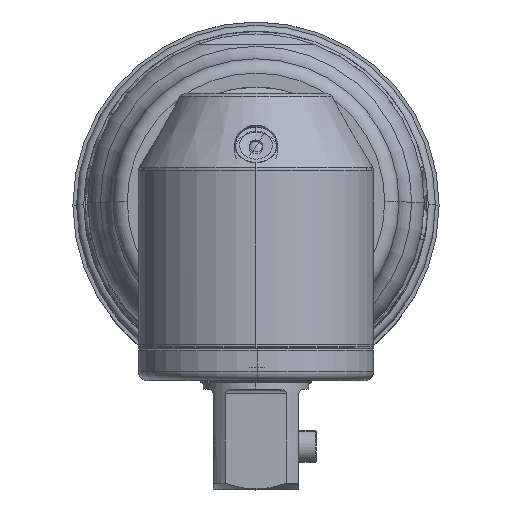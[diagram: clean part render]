
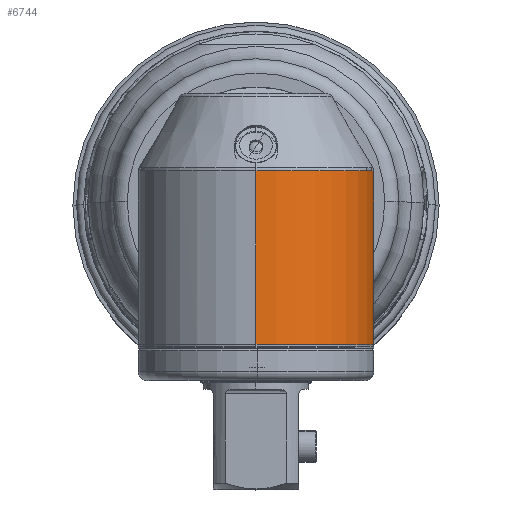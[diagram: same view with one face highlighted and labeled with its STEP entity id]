
A CAD part, top view. The second image highlights one B-rep face of the part: STEP entity #6744.
In plain terms, the highlighted cylindrical face has radius 13.081 mm (diameter 26.162 mm), a partial arc.
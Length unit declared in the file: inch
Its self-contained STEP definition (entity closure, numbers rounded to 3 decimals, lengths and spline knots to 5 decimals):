
#1413 = CARTESIAN_POINT ( 'NONE',  ( 0., -0.62647, 6.99332 ) ) ;
#3369 = CARTESIAN_POINT ( 'NONE',  ( 0.36282, -0.3648, 6.11243 ) ) ;
#3511 = VECTOR ( 'NONE', #37301, 39.37008 ) ;
#3954 = CARTESIAN_POINT ( 'NONE',  ( 0.44399, -0.24677, 6.21567 ) ) ;
#5817 = AXIS2_PLACEMENT_3D ( 'NONE', #27401, #51728, #23624 ) ;
#5897 = VERTEX_POINT ( 'NONE', #1413 ) ;
#6402 = CARTESIAN_POINT ( 'NONE',  ( 0., 0.13299, 6.99332 ) ) ;
#6744 = ADVANCED_FACE ( 'NONE', ( #47325 ), #39383, .T. ) ;
#7674 = CARTESIAN_POINT ( 'NONE',  ( 0.27817, -0.44016, 6.04451 ) ) ;
#8272 = CARTESIAN_POINT ( 'NONE',  ( 0.17091, -0.49763, 5.99208 ) ) ;
#8562 = CARTESIAN_POINT ( 'NONE',  ( 0.38634, -0.33675, 6.13736 ) ) ;
#9165 = CARTESIAN_POINT ( 'NONE',  ( 0.50003, -0.03081, 6.35504 ) ) ;
#9177 = EDGE_CURVE ( 'NONE', #16048, #18610, #26605, .T. ) ;
#10642 = DIRECTION ( 'NONE',  ( 0., 0., 1. ) ) ;
#11414 = AXIS2_PLACEMENT_3D ( 'NONE', #43348, #29170, #10642 ) ;
#11429 = DIRECTION ( 'NONE',  ( 0., 0., 1. ) ) ;
#12171 = AXIS2_PLACEMENT_3D ( 'NONE', #17238, #12342, #11429 ) ;
#12229 = CARTESIAN_POINT ( 'NONE',  ( 0.0444, -0.52739, 5.96478 ) ) ;
#12342 = DIRECTION ( 'NONE',  ( 0., 1., 0. ) ) ;
#12381 = EDGE_LOOP ( 'NONE', ( #44365, #18179, #15277, #31672, #21694 ) ) ;
#12538 = CARTESIAN_POINT ( 'NONE',  ( 0.30895, -0.4166, 6.06586 ) ) ;
#13139 = CARTESIAN_POINT ( 'NONE',  ( 0.42739, -0.27766, 6.18912 ) ) ;
#13465 = CARTESIAN_POINT ( 'NONE',  ( 0.48121, -0.14696, 6.29432 ) ) ;
#15277 = ORIENTED_EDGE ( 'NONE', *, *, #48624, .T. ) ;
#16048 = VERTEX_POINT ( 'NONE', #56120 ) ;
#16228 = CARTESIAN_POINT ( 'NONE',  ( 0.32331, -0.4042, 6.07706 ) ) ;
#16957 = VERTEX_POINT ( 'NONE', #57329 ) ;
#17106 = CARTESIAN_POINT ( 'NONE',  ( 0., -0.52897, 5.96332 ) ) ;
#17238 = CARTESIAN_POINT ( 'NONE',  ( 0., -0.62647, 6.47832 ) ) ;
#17721 = CARTESIAN_POINT ( 'NONE',  ( 0.49606, -0.07257, 6.33985 ) ) ;
#18179 = ORIENTED_EDGE ( 'NONE', *, *, #18759, .T. ) ;
#18610 = VERTEX_POINT ( 'NONE', #6402 ) ;
#18633 = CARTESIAN_POINT ( 'NONE',  ( 0.49702, 0.06697, 6.34335 ) ) ;
#18759 = EDGE_CURVE ( 'NONE', #16957, #39253, #54286, .T. ) ;
#18944 = CARTESIAN_POINT ( 'NONE',  ( 0.48505, 0.13299, 6.30527 ) ) ;
#21694 = ORIENTED_EDGE ( 'NONE', *, *, #36512, .F. ) ;
#22373 = CARTESIAN_POINT ( 'NONE',  ( 0.48943, 0.11499, 6.31753 ) ) ;
#22660 = CARTESIAN_POINT ( 'NONE',  ( 0.50044, 0.02462, 6.35672 ) ) ;
#23578 = CARTESIAN_POINT ( 'NONE',  ( 0.49814, 0.05683, 6.3476 ) ) ;
#23624 = DIRECTION ( 'NONE',  ( 0., 0., 1. ) ) ;
#26605 = CIRCLE ( 'NONE', #5817, 0.515 ) ;
#27057 = CARTESIAN_POINT ( 'NONE',  ( 0.22707, -0.47183, 6.01567 ) ) ;
#27401 = CARTESIAN_POINT ( 'NONE',  ( 0., 0.13299, 6.47832 ) ) ;
#27967 = CARTESIAN_POINT ( 'NONE',  ( 0.49145, -0.10148, 6.32425 ) ) ;
#28547 = LINE ( 'NONE', #47315, #50505 ) ;
#28556 = CARTESIAN_POINT ( 'NONE',  ( 0.47053, -0.18142, 6.2685 ) ) ;
#29170 = DIRECTION ( 'NONE',  ( 0., 1., 0. ) ) ;
#30849 = CARTESIAN_POINT ( 'NONE',  ( 0., -0.62647, 5.96332 ) ) ;
#31104 = CARTESIAN_POINT ( 'NONE',  ( 0.15085, -0.50488, 5.98544 ) ) ;
#31672 = ORIENTED_EDGE ( 'NONE', *, *, #9177, .T. ) ;
#32296 = CARTESIAN_POINT ( 'NONE',  ( 0.50085, -0.00881, 6.35841 ) ) ;
#32597 = CARTESIAN_POINT ( 'NONE',  ( 0.49986, 0.03555, 6.35434 ) ) ;
#32906 = CARTESIAN_POINT ( 'NONE',  ( 0.49732, -0.06248, 6.34447 ) ) ;
#33185 = CARTESIAN_POINT ( 'NONE',  ( 0.49931, -0.04151, 6.35211 ) ) ;
#36512 = EDGE_CURVE ( 'NONE', #5897, #18610, #28547, .T. ) ;
#36643 = CARTESIAN_POINT ( 'NONE',  ( 0.46445, -0.19806, 6.25532 ) ) ;
#37301 = DIRECTION ( 'NONE',  ( 0., 1., 0. ) ) ;
#39253 = VERTEX_POINT ( 'NONE', #17106 ) ;
#39383 = CYLINDRICAL_SURFACE ( 'NONE', #11414, 0.515 ) ;
#39756 = CARTESIAN_POINT ( 'NONE',  ( 0., -0.52897, 5.96332 ) ) ;
#42446 = CARTESIAN_POINT ( 'NONE',  ( 0.49313, -0.09204, 6.32975 ) ) ;
#43348 = CARTESIAN_POINT ( 'NONE',  ( 0., -0.62647, 6.47832 ) ) ;
#44365 = ORIENTED_EDGE ( 'NONE', *, *, #58276, .T. ) ;
#45238 = CARTESIAN_POINT ( 'NONE',  ( 0.10912, -0.51674, 5.97456 ) ) ;
#45567 = CARTESIAN_POINT ( 'NONE',  ( 0.35025, -0.3783, 6.10034 ) ) ;
#46462 = DIRECTION ( 'NONE',  ( 0., 1., 0. ) ) ;
#46757 = CARTESIAN_POINT ( 'NONE',  ( 0.50093, 0.00255, 6.35877 ) ) ;
#47315 = CARTESIAN_POINT ( 'NONE',  ( 0., -0.62647, 6.99332 ) ) ;
#47321 = CARTESIAN_POINT ( 'NONE',  ( 0.3973, -0.32217, 6.15023 ) ) ;
#47325 = FACE_OUTER_BOUND ( 'NONE', #12381, .T. ) ;
#47598 = CIRCLE ( 'NONE', #12171, 0.515 ) ;
#48624 = EDGE_CURVE ( 'NONE', #39253, #16048, #56744, .T. ) ;
#50475 = CARTESIAN_POINT ( 'NONE',  ( 0.08773, -0.52129, 5.97038 ) ) ;
#50505 = VECTOR ( 'NONE', #46462, 39.37008 ) ;
#51728 = DIRECTION ( 'NONE',  ( 0., -1., 0. ) ) ;
#54286 = LINE ( 'NONE', #30849, #3511 ) ;
#54857 = CARTESIAN_POINT ( 'NONE',  ( 0.02239, -0.52897, 5.96332 ) ) ;
#55461 = CARTESIAN_POINT ( 'NONE',  ( 0.49299, 0.09649, 6.32906 ) ) ;
#55764 = CARTESIAN_POINT ( 'NONE',  ( 0.4858, -0.12919, 6.30695 ) ) ;
#56120 = CARTESIAN_POINT ( 'NONE',  ( 0.48505, 0.13299, 6.30527 ) ) ;
#56744 = B_SPLINE_CURVE_WITH_KNOTS ( 'NONE', 3,
 ( #39756, #54857, #12229, #50475, #45238, #31104, #8272, #58857, #27057, #58548, #7674, #12538, #16228, #45567, #3369, #8562, #47321, #13139, #3954, #36643, #28556, #13465, #55764, #27967, #42446, #17721, #32906, #33185, #9165, #32296, #46757, #22660, #32597, #23578, #18633, #55461, #22373, #18944 ),
 .UNSPECIFIED., .F., .F.,
 ( 4, 2, 2, 2, 2, 2, 2, 2, 2, 2, 2, 2, 2, 2, 2, 2, 2, 2, 4 ),
 ( 0.02716, 0.02886, 0.03056, 0.03226, 0.03395, 0.03565, 0.03735, 0.03905, 0.04074, 0.04414, 0.04583, 0.04753, 0.04838, 0.04923, 0.05008, 0.05093, 0.05177, 0.05262, 0.05432 ),
 .UNSPECIFIED. ) ;
#57329 = CARTESIAN_POINT ( 'NONE',  ( 0., -0.62647, 5.96332 ) ) ;
#58276 = EDGE_CURVE ( 'NONE', #5897, #16957, #47598, .T. ) ;
#58548 = CARTESIAN_POINT ( 'NONE',  ( 0.26165, -0.45138, 6.03431 ) ) ;
#58857 = CARTESIAN_POINT ( 'NONE',  ( 0.20896, -0.48113, 6.00718 ) ) ;
